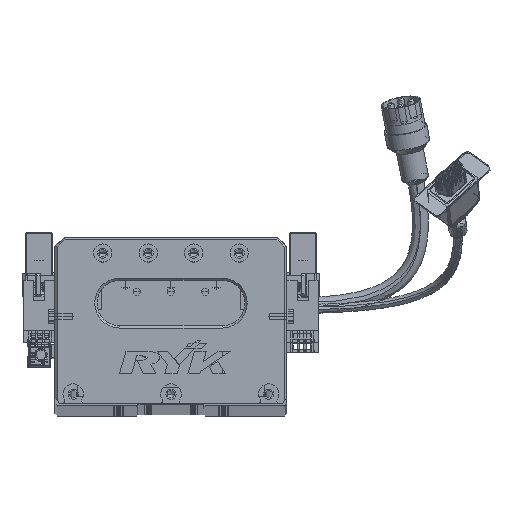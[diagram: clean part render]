
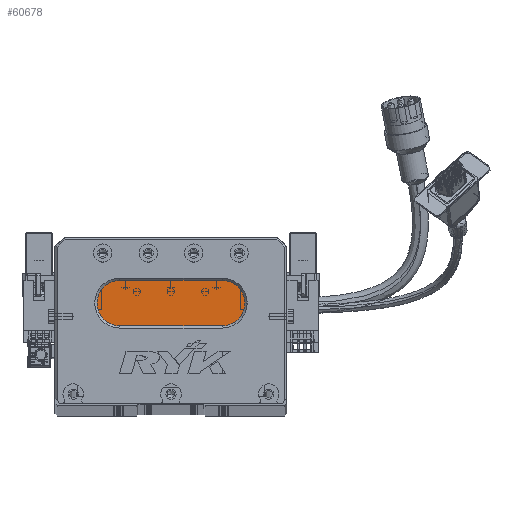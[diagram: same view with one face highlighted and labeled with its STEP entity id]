
A CAD part, top view. The second image highlights one B-rep face of the part: STEP entity #60678.
In plain terms, the highlighted planar face has unit normal (0, 0, 1) as drawn and (0, 0, -1) by its records, which use the part's own axes.
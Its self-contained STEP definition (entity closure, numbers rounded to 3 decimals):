
#2128 = AXIS2_PLACEMENT_3D ( 'NONE', #40373, #13383, #66702 ) ;
#3722 = CARTESIAN_POINT ( 'NONE',  ( 28.5, 44., 13. ) ) ;
#5619 = LINE ( 'NONE', #8698, #39583 ) ;
#7576 = DIRECTION ( 'NONE',  ( 0., 0., -1. ) ) ;
#7809 = ORIENTED_EDGE ( 'NONE', *, *, #66951, .T. ) ;
#8698 = CARTESIAN_POINT ( 'NONE',  ( 73.5, 54., 13. ) ) ;
#8758 = ORIENTED_EDGE ( 'NONE', *, *, #77779, .T. ) ;
#9267 = DIRECTION ( 'NONE',  ( -1., 0., 0. ) ) ;
#13383 = DIRECTION ( 'NONE',  ( 0., 0., -1. ) ) ;
#13544 = PLANE ( 'NONE',  #48045 ) ;
#15753 = CARTESIAN_POINT ( 'NONE',  ( 28.5, 34., 13. ) ) ;
#15782 = DIRECTION ( 'NONE',  ( -1., 0., 0. ) ) ;
#16206 = EDGE_CURVE ( 'NONE', #20029, #59776, #58633, .T. ) ;
#16804 = DIRECTION ( 'NONE',  ( -1., 0., 0. ) ) ;
#17268 = ORIENTED_EDGE ( 'NONE', *, *, #73151, .T. ) ;
#20029 = VERTEX_POINT ( 'NONE', #21679 ) ;
#20199 = CARTESIAN_POINT ( 'NONE',  ( 73.5, 54., 13. ) ) ;
#21679 = CARTESIAN_POINT ( 'NONE',  ( 73.5, 34., 13. ) ) ;
#26029 = ORIENTED_EDGE ( 'NONE', *, *, #16206, .T. ) ;
#28786 = CIRCLE ( 'NONE', #2128, 10. ) ;
#30539 = CIRCLE ( 'NONE', #59820, 10. ) ;
#32360 = VERTEX_POINT ( 'NONE', #56509 ) ;
#34580 = DIRECTION ( 'NONE',  ( -1., 0., 0. ) ) ;
#39583 = VECTOR ( 'NONE', #56124, 1000. ) ;
#40113 = CIRCLE ( 'NONE', #63573, 10. ) ;
#40373 = CARTESIAN_POINT ( 'NONE',  ( 73.5, 44., 13. ) ) ;
#42643 = CARTESIAN_POINT ( 'NONE',  ( 28.5, 54., 13. ) ) ;
#45191 = VERTEX_POINT ( 'NONE', #20199 ) ;
#47627 = CARTESIAN_POINT ( 'NONE',  ( 73.5, 44., 13. ) ) ;
#48045 = AXIS2_PLACEMENT_3D ( 'NONE', #47627, #7576, #34580 ) ;
#50711 = EDGE_CURVE ( 'NONE', #60174, #45191, #5619, .T. ) ;
#55985 = FACE_OUTER_BOUND ( 'NONE', #77139, .T. ) ;
#56124 = DIRECTION ( 'NONE',  ( 1., 0., 0. ) ) ;
#56369 = CARTESIAN_POINT ( 'NONE',  ( 73.5, 34., 13. ) ) ;
#56509 = CARTESIAN_POINT ( 'NONE',  ( 18.5, 44., 13. ) ) ;
#58633 = LINE ( 'NONE', #56369, #67117 ) ;
#59776 = VERTEX_POINT ( 'NONE', #15753 ) ;
#59820 = AXIS2_PLACEMENT_3D ( 'NONE', #63172, #69410, #9267 ) ;
#60174 = VERTEX_POINT ( 'NONE', #42643 ) ;
#60678 = ADVANCED_FACE ( 'NONE', ( #55985 ), #13544, .T. ) ;
#63172 = CARTESIAN_POINT ( 'NONE',  ( 28.5, 44., 13. ) ) ;
#63573 = AXIS2_PLACEMENT_3D ( 'NONE', #3722, #76916, #16804 ) ;
#66702 = DIRECTION ( 'NONE',  ( -1., 0., 0. ) ) ;
#66951 = EDGE_CURVE ( 'NONE', #59776, #32360, #30539, .T. ) ;
#67117 = VECTOR ( 'NONE', #15782, 1000. ) ;
#69410 = DIRECTION ( 'NONE',  ( 0., 0., -1. ) ) ;
#73151 = EDGE_CURVE ( 'NONE', #32360, #60174, #40113, .T. ) ;
#76916 = DIRECTION ( 'NONE',  ( 0., 0., -1. ) ) ;
#77139 = EDGE_LOOP ( 'NONE', ( #8758, #26029, #7809, #17268, #79393 ) ) ;
#77779 = EDGE_CURVE ( 'NONE', #45191, #20029, #28786, .T. ) ;
#79393 = ORIENTED_EDGE ( 'NONE', *, *, #50711, .T. ) ;
